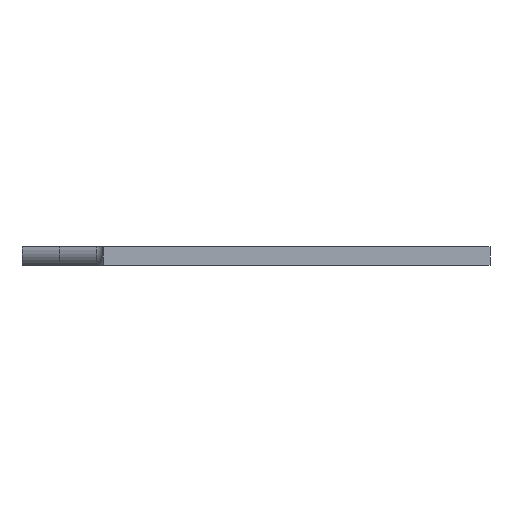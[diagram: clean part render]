
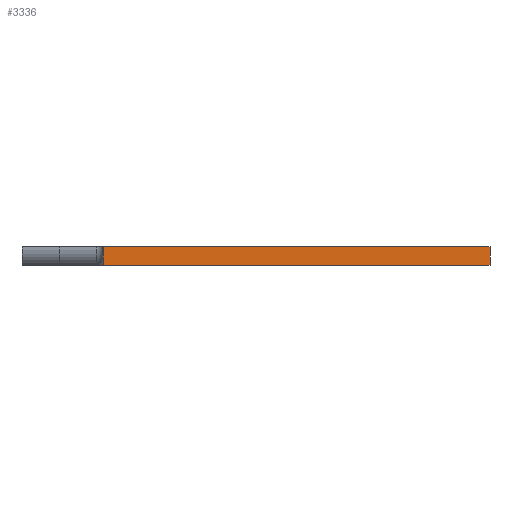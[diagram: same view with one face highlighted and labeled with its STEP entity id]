
A CAD part, front view. The second image highlights one B-rep face of the part: STEP entity #3336.
In plain terms, the highlighted planar face has unit normal (0, -1, 0).
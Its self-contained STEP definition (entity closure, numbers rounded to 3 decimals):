
#32 = PLANE('',#33);
#33 = AXIS2_PLACEMENT_3D('',#34,#35,#36);
#34 = CARTESIAN_POINT('',(53.033,53.033,0.));
#35 = DIRECTION('',(0.,0.,1.));
#36 = DIRECTION('',(1.,0.,-0.));
#250 = VERTEX_POINT('',#251);
#251 = CARTESIAN_POINT('',(26.,0.,0.));
#264 = PLANE('',#265);
#265 = AXIS2_PLACEMENT_3D('',#266,#267,#268);
#266 = CARTESIAN_POINT('',(26.,75.,51.));
#267 = DIRECTION('',(-1.,0.,0.));
#268 = DIRECTION('',(0.,0.,-1.));
#275 = EDGE_CURVE('',#250,#276,#278,.T.);
#276 = VERTEX_POINT('',#277);
#277 = CARTESIAN_POINT('',(150.,0.,0.));
#278 = SURFACE_CURVE('',#279,(#283,#290),.PCURVE_S1.);
#279 = LINE('',#280,#281);
#280 = CARTESIAN_POINT('',(0.,0.,0.));
#281 = VECTOR('',#282,1.);
#282 = DIRECTION('',(1.,0.,0.));
#283 = PCURVE('',#32,#284);
#284 = DEFINITIONAL_REPRESENTATION('',(#285),#289);
#285 = LINE('',#286,#287);
#286 = CARTESIAN_POINT('',(-53.033,-53.033));
#287 = VECTOR('',#288,1.);
#288 = DIRECTION('',(1.,0.));
#289 = ( GEOMETRIC_REPRESENTATION_CONTEXT(2) 
PARAMETRIC_REPRESENTATION_CONTEXT() REPRESENTATION_CONTEXT('2D SPACE',''
  ) );
#290 = PCURVE('',#291,#296);
#291 = PLANE('',#292);
#292 = AXIS2_PLACEMENT_3D('',#293,#294,#295);
#293 = CARTESIAN_POINT('',(0.,0.,0.));
#294 = DIRECTION('',(0.,1.,0.));
#295 = DIRECTION('',(1.,0.,0.));
#296 = DEFINITIONAL_REPRESENTATION('',(#297),#301);
#297 = LINE('',#298,#299);
#298 = CARTESIAN_POINT('',(0.,0.));
#299 = VECTOR('',#300,1.);
#300 = DIRECTION('',(1.,0.));
#301 = ( GEOMETRIC_REPRESENTATION_CONTEXT(2) 
PARAMETRIC_REPRESENTATION_CONTEXT() REPRESENTATION_CONTEXT('2D SPACE',''
  ) );
#319 = PLANE('',#320);
#320 = AXIS2_PLACEMENT_3D('',#321,#322,#323);
#321 = CARTESIAN_POINT('',(150.,0.,0.));
#322 = DIRECTION('',(-0.707,-0.707,0.));
#323 = DIRECTION('',(-0.707,0.707,0.));
#901 = PLANE('',#902);
#902 = AXIS2_PLACEMENT_3D('',#903,#904,#905);
#903 = CARTESIAN_POINT('',(53.033,53.033,6.));
#904 = DIRECTION('',(0.,0.,1.));
#905 = DIRECTION('',(1.,0.,-0.));
#3292 = EDGE_CURVE('',#276,#3293,#3295,.T.);
#3293 = VERTEX_POINT('',#3294);
#3294 = CARTESIAN_POINT('',(150.,0.,6.));
#3295 = SURFACE_CURVE('',#3296,(#3300,#3307),.PCURVE_S1.);
#3296 = LINE('',#3297,#3298);
#3297 = CARTESIAN_POINT('',(150.,0.,0.));
#3298 = VECTOR('',#3299,1.);
#3299 = DIRECTION('',(0.,0.,1.));
#3300 = PCURVE('',#319,#3301);
#3301 = DEFINITIONAL_REPRESENTATION('',(#3302),#3306);
#3302 = LINE('',#3303,#3304);
#3303 = CARTESIAN_POINT('',(0.,0.));
#3304 = VECTOR('',#3305,1.);
#3305 = DIRECTION('',(0.,-1.));
#3306 = ( GEOMETRIC_REPRESENTATION_CONTEXT(2) 
PARAMETRIC_REPRESENTATION_CONTEXT() REPRESENTATION_CONTEXT('2D SPACE',''
  ) );
#3307 = PCURVE('',#291,#3308);
#3308 = DEFINITIONAL_REPRESENTATION('',(#3309),#3313);
#3309 = LINE('',#3310,#3311);
#3310 = CARTESIAN_POINT('',(150.,0.));
#3311 = VECTOR('',#3312,1.);
#3312 = DIRECTION('',(0.,-1.));
#3313 = ( GEOMETRIC_REPRESENTATION_CONTEXT(2) 
PARAMETRIC_REPRESENTATION_CONTEXT() REPRESENTATION_CONTEXT('2D SPACE',''
  ) );
#3336 = ADVANCED_FACE('',(#3337),#291,.F.);
#3337 = FACE_BOUND('',#3338,.F.);
#3338 = EDGE_LOOP('',(#3339,#3340,#3361,#3382));
#3339 = ORIENTED_EDGE('',*,*,#275,.F.);
#3340 = ORIENTED_EDGE('',*,*,#3341,.T.);
#3341 = EDGE_CURVE('',#250,#3342,#3344,.T.);
#3342 = VERTEX_POINT('',#3343);
#3343 = CARTESIAN_POINT('',(26.,0.,6.));
#3344 = SURFACE_CURVE('',#3345,(#3349,#3355),.PCURVE_S1.);
#3345 = LINE('',#3346,#3347);
#3346 = CARTESIAN_POINT('',(26.,0.,25.5));
#3347 = VECTOR('',#3348,1.);
#3348 = DIRECTION('',(0.,-0.,1.));
#3349 = PCURVE('',#291,#3350);
#3350 = DEFINITIONAL_REPRESENTATION('',(#3351),#3354);
#3351 = B_SPLINE_CURVE_WITH_KNOTS('',1,(#3352,#3353),.UNSPECIFIED.,.F.,
  .F.,(2,2),(-25.5,-19.5),.PIECEWISE_BEZIER_KNOTS.);
#3352 = CARTESIAN_POINT('',(26.,0.));
#3353 = CARTESIAN_POINT('',(26.,-6.));
#3354 = ( GEOMETRIC_REPRESENTATION_CONTEXT(2) 
PARAMETRIC_REPRESENTATION_CONTEXT() REPRESENTATION_CONTEXT('2D SPACE',''
  ) );
#3355 = PCURVE('',#264,#3356);
#3356 = DEFINITIONAL_REPRESENTATION('',(#3357),#3360);
#3357 = B_SPLINE_CURVE_WITH_KNOTS('',1,(#3358,#3359),.UNSPECIFIED.,.F.,
  .F.,(2,2),(-25.5,-19.5),.PIECEWISE_BEZIER_KNOTS.);
#3358 = CARTESIAN_POINT('',(51.,75.));
#3359 = CARTESIAN_POINT('',(45.,75.));
#3360 = ( GEOMETRIC_REPRESENTATION_CONTEXT(2) 
PARAMETRIC_REPRESENTATION_CONTEXT() REPRESENTATION_CONTEXT('2D SPACE',''
  ) );
#3361 = ORIENTED_EDGE('',*,*,#3362,.T.);
#3362 = EDGE_CURVE('',#3342,#3293,#3363,.T.);
#3363 = SURFACE_CURVE('',#3364,(#3368,#3375),.PCURVE_S1.);
#3364 = LINE('',#3365,#3366);
#3365 = CARTESIAN_POINT('',(0.,0.,6.));
#3366 = VECTOR('',#3367,1.);
#3367 = DIRECTION('',(1.,0.,0.));
#3368 = PCURVE('',#291,#3369);
#3369 = DEFINITIONAL_REPRESENTATION('',(#3370),#3374);
#3370 = LINE('',#3371,#3372);
#3371 = CARTESIAN_POINT('',(0.,-6.));
#3372 = VECTOR('',#3373,1.);
#3373 = DIRECTION('',(1.,0.));
#3374 = ( GEOMETRIC_REPRESENTATION_CONTEXT(2) 
PARAMETRIC_REPRESENTATION_CONTEXT() REPRESENTATION_CONTEXT('2D SPACE',''
  ) );
#3375 = PCURVE('',#901,#3376);
#3376 = DEFINITIONAL_REPRESENTATION('',(#3377),#3381);
#3377 = LINE('',#3378,#3379);
#3378 = CARTESIAN_POINT('',(-53.033,-53.033));
#3379 = VECTOR('',#3380,1.);
#3380 = DIRECTION('',(1.,0.));
#3381 = ( GEOMETRIC_REPRESENTATION_CONTEXT(2) 
PARAMETRIC_REPRESENTATION_CONTEXT() REPRESENTATION_CONTEXT('2D SPACE',''
  ) );
#3382 = ORIENTED_EDGE('',*,*,#3292,.F.);
